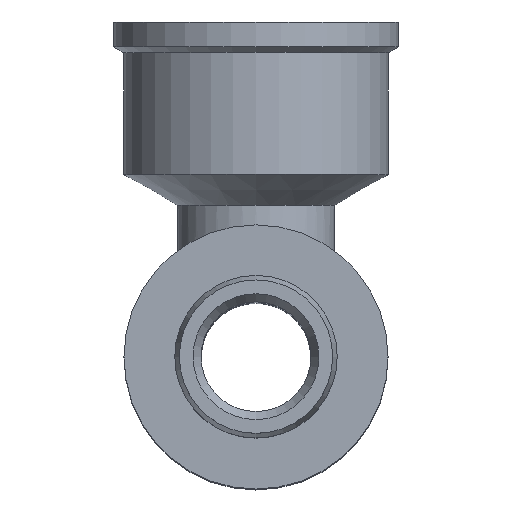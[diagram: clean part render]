
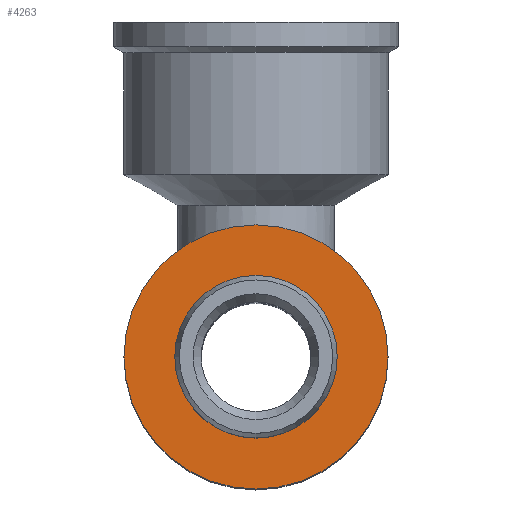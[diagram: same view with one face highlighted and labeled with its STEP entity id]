
A CAD part, top view. The second image highlights one B-rep face of the part: STEP entity #4263.
In plain terms, the highlighted planar face has unit normal (0, 0, 1).
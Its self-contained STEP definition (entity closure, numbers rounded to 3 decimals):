
#125=CIRCLE('',#4529,7.25);
#126=CIRCLE('',#4530,7.25);
#127=CIRCLE('',#4532,13.);
#128=CIRCLE('',#4533,13.);
#213=FACE_BOUND('',#1052,.T.);
#792=FACE_OUTER_BOUND('',#1051,.T.);
#1051=EDGE_LOOP('',(#3696,#3697));
#1052=EDGE_LOOP('',(#3698,#3699));
#1983=VERTEX_POINT('',#9167);
#1984=VERTEX_POINT('',#9168);
#1985=VERTEX_POINT('',#9173);
#1986=VERTEX_POINT('',#9174);
#2583=EDGE_CURVE('',#1983,#1984,#125,.T.);
#2584=EDGE_CURVE('',#1984,#1983,#126,.T.);
#2586=EDGE_CURVE('',#1985,#1986,#127,.T.);
#2587=EDGE_CURVE('',#1986,#1985,#128,.T.);
#3696=ORIENTED_EDGE('',*,*,#2586,.F.);
#3697=ORIENTED_EDGE('',*,*,#2587,.F.);
#3698=ORIENTED_EDGE('',*,*,#2583,.T.);
#3699=ORIENTED_EDGE('',*,*,#2584,.T.);
#4064=PLANE('',#4531);
#4263=ADVANCED_FACE('',(#792,#213),#4064,.T.);
#4529=AXIS2_PLACEMENT_3D('',#9169,#5239,#5240);
#4530=AXIS2_PLACEMENT_3D('',#9170,#5241,#5242);
#4531=AXIS2_PLACEMENT_3D('',#9172,#5244,#5245);
#4532=AXIS2_PLACEMENT_3D('',#9175,#5246,#5247);
#4533=AXIS2_PLACEMENT_3D('',#9176,#5248,#5249);
#5239=DIRECTION('center_axis',(0.,0.,-1.));
#5240=DIRECTION('ref_axis',(1.,0.,0.));
#5241=DIRECTION('center_axis',(0.,0.,-1.));
#5242=DIRECTION('ref_axis',(1.,0.,0.));
#5244=DIRECTION('center_axis',(0.,0.,1.));
#5245=DIRECTION('ref_axis',(1.,0.,0.));
#5246=DIRECTION('center_axis',(0.,0.,-1.));
#5247=DIRECTION('ref_axis',(1.,0.,0.));
#5248=DIRECTION('center_axis',(0.,0.,-1.));
#5249=DIRECTION('ref_axis',(1.,0.,0.));
#9167=CARTESIAN_POINT('',(0.,-7.25,73.5));
#9168=CARTESIAN_POINT('',(0.,7.25,73.5));
#9169=CARTESIAN_POINT('Origin',(0.,0.,73.5));
#9170=CARTESIAN_POINT('Origin',(0.,0.,73.5));
#9172=CARTESIAN_POINT('Origin',(0.,-13.,73.5));
#9173=CARTESIAN_POINT('',(0.,-13.,73.5));
#9174=CARTESIAN_POINT('',(0.,13.,73.5));
#9175=CARTESIAN_POINT('Origin',(0.,0.,73.5));
#9176=CARTESIAN_POINT('Origin',(0.,0.,73.5));
